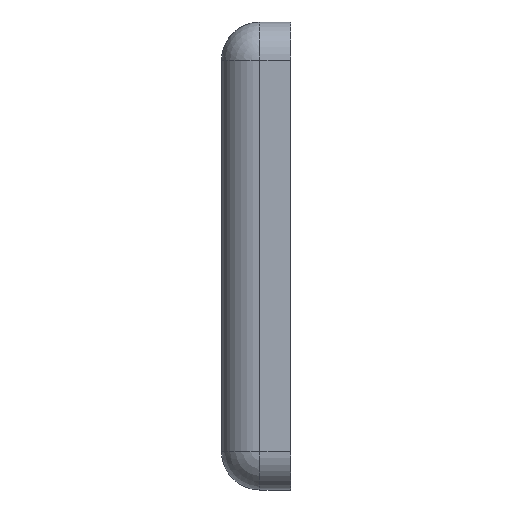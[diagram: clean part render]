
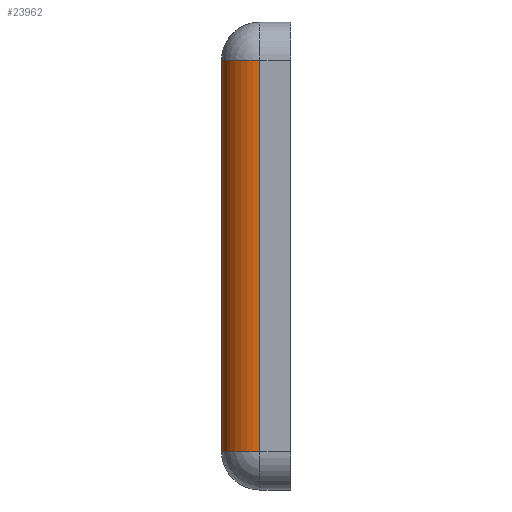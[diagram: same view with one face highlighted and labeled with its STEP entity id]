
A CAD part, left-side view. The second image highlights one B-rep face of the part: STEP entity #23962.
In plain terms, the highlighted cylindrical face has radius 31.75 mm (diameter 63.5 mm), a partial arc.
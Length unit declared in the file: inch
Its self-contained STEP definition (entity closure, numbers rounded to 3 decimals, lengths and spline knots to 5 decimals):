
#352 = VERTEX_POINT ( 'NONE', #4581 ) ;
#2881 = DIRECTION ( 'NONE',  ( 0., 0., -1. ) ) ;
#4463 = LINE ( 'NONE', #18815, #14119 ) ;
#4581 = CARTESIAN_POINT ( 'NONE',  ( -14.40427, 1., 6.37308 ) ) ;
#6857 = DIRECTION ( 'NONE',  ( 0., 0., 1. ) ) ;
#8095 = DIRECTION ( 'NONE',  ( 0., 0., -1. ) ) ;
#9359 = CARTESIAN_POINT ( 'NONE',  ( -13.15427, 2.25, 6.37308 ) ) ;
#9724 = VERTEX_POINT ( 'NONE', #19936 ) ;
#10411 = DIRECTION ( 'NONE',  ( 0., 1., 0. ) ) ;
#11336 = ORIENTED_EDGE ( 'NONE', *, *, #32891, .F. ) ;
#11591 = CARTESIAN_POINT ( 'NONE',  ( -14.40427, 1., -6.37308 ) ) ;
#12208 = FACE_OUTER_BOUND ( 'NONE', #34311, .T. ) ;
#14119 = VECTOR ( 'NONE', #8095, 39.37008 ) ;
#15884 = CARTESIAN_POINT ( 'NONE',  ( -13.15427, 1., -6.37308 ) ) ;
#16013 = DIRECTION ( 'NONE',  ( 1., 0., 0. ) ) ;
#17967 = CARTESIAN_POINT ( 'NONE',  ( -13.15427, 1., -6.37308 ) ) ;
#18815 = CARTESIAN_POINT ( 'NONE',  ( -14.40427, 1., -6.37308 ) ) ;
#19291 = DIRECTION ( 'NONE',  ( 0., 0., 1. ) ) ;
#19366 = VERTEX_POINT ( 'NONE', #11591 ) ;
#19936 = CARTESIAN_POINT ( 'NONE',  ( -13.15427, 2.25, -6.37308 ) ) ;
#20471 = ORIENTED_EDGE ( 'NONE', *, *, #45842, .F. ) ;
#23694 = CARTESIAN_POINT ( 'NONE',  ( -13.15427, 2.25, 6.37308 ) ) ;
#23962 = ADVANCED_FACE ( 'NONE', ( #12208 ), #45799, .T. ) ;
#24085 = EDGE_CURVE ( 'NONE', #30408, #352, #26581, .T. ) ;
#24230 = DIRECTION ( 'NONE',  ( 0., 0., 1. ) ) ;
#26581 = CIRCLE ( 'NONE', #29713, 1.25 ) ;
#27079 = DIRECTION ( 'NONE',  ( 1., 0., 0. ) ) ;
#29365 = VECTOR ( 'NONE', #24230, 39.37008 ) ;
#29713 = AXIS2_PLACEMENT_3D ( 'NONE', #47976, #6857, #16013 ) ;
#30408 = VERTEX_POINT ( 'NONE', #23694 ) ;
#32891 = EDGE_CURVE ( 'NONE', #9724, #30408, #42710, .T. ) ;
#34311 = EDGE_LOOP ( 'NONE', ( #38557, #20471, #42377, #11336 ) ) ;
#38557 = ORIENTED_EDGE ( 'NONE', *, *, #44449, .F. ) ;
#41303 = CIRCLE ( 'NONE', #44426, 1.25 ) ;
#42377 = ORIENTED_EDGE ( 'NONE', *, *, #24085, .F. ) ;
#42710 = LINE ( 'NONE', #9359, #29365 ) ;
#44426 = AXIS2_PLACEMENT_3D ( 'NONE', #17967, #2881, #10411 ) ;
#44449 = EDGE_CURVE ( 'NONE', #19366, #9724, #41303, .T. ) ;
#45227 = AXIS2_PLACEMENT_3D ( 'NONE', #15884, #19291, #27079 ) ;
#45799 = CYLINDRICAL_SURFACE ( 'NONE', #45227, 1.25 ) ;
#45842 = EDGE_CURVE ( 'NONE', #352, #19366, #4463, .T. ) ;
#47976 = CARTESIAN_POINT ( 'NONE',  ( -13.15427, 1., 6.37308 ) ) ;
